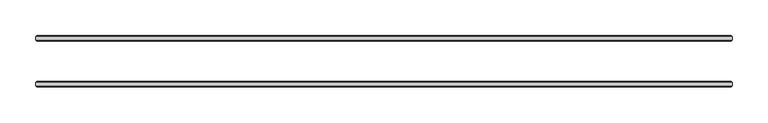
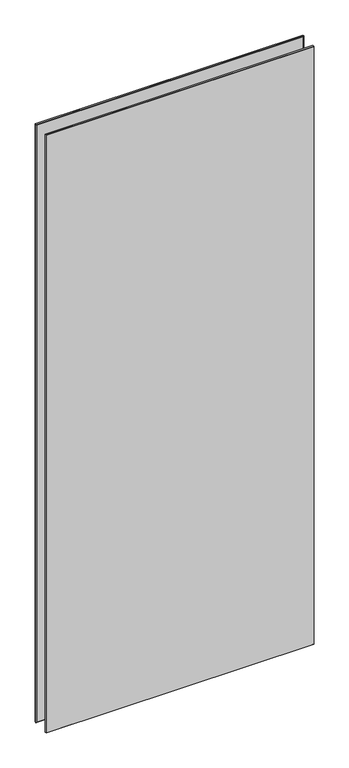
"""IFC4 building model written with IfcOpenShell, lengths in millimetres: plate geometry, 3-AMG-2-Панель двойной витраж 8, 10 : Смещение 32 Толщина 8mm."""

from ifc_helpers import new_model, si_unit, origin, place, context, project, spatial, faceted_brep, source, transform, mapped, element, save


def plate_b0ecfe9c(model_context):
    return source(origin(), model_context, "Body", "Brep", [
        faceted_brep([(484.2182676, -34.4961653, 2287.9376562), (484.2182676, -29.5038347, 2287.9376562), (-489.2182676, -29.5038347, 2287.9376562), (-489.2182676, -34.4961653, 2287.9376562), (484.2182676, -29.5038347, -7.0), (484.2182676, -34.4961653, -7.0), (-489.2182676, -34.4961653, -7.0), (-489.2182676, -29.5038347, -7.0), (-487.7144328, -28.0, 2286.4338215), (482.7144328, -28.0, 2286.4338215), (482.7144328, -28.0, -5.5039422), (-487.7144328, -28.0, -5.5039422), (482.7144328, -36.0, 2286.4338215), (-487.7144328, -36.0, 2286.4338215), (-487.7144328, -36.0, -5.4961653), (482.7144328, -36.0, -5.4961653)], [[[0, 1, 2, 3]], [[4, 5, 6, 7]], [[8, 9, 10, 11]], [[3, 2, 7, 6]], [[12, 13, 14, 15]], [[1, 0, 5, 4]], [[1, 4, 10, 9]], [[5, 0, 12, 15]], [[0, 3, 13, 12]], [[2, 1, 9, 8]], [[7, 2, 8, 11]], [[3, 6, 14, 13]], [[6, 5, 15, 14]], [[4, 7, 11, 10]]]),
        faceted_brep([(484.2182676, 29.5038347, 2287.9376562), (484.2182676, 34.4961653, 2287.9376562), (-489.2182676, 34.4961653, 2287.9376562), (-489.2182676, 29.5038347, 2287.9376562), (484.2182676, 34.4961653, -7.0), (484.2182676, 29.5038347, -7.0), (-489.2182676, 29.5038347, -7.0), (-489.2182676, 34.4961653, -7.0), (-487.7144328, 36.0, 2286.4338215), (482.7144328, 36.0, 2286.4338215), (482.7144328, 36.0, -5.5039422), (-487.7144328, 36.0, -5.5039422), (482.7144328, 28.0, 2286.4338215), (-487.7144328, 28.0, 2286.4338215), (-487.7144328, 28.0, -5.4961653), (482.7144328, 28.0, -5.4961653)], [[[0, 1, 2, 3]], [[4, 5, 6, 7]], [[8, 9, 10, 11]], [[3, 2, 7, 6]], [[12, 13, 14, 15]], [[1, 0, 5, 4]], [[1, 4, 10, 9]], [[5, 0, 12, 15]], [[7, 2, 8, 11]], [[3, 6, 14, 13]], [[0, 3, 13, 12]], [[2, 1, 9, 8]], [[6, 5, 15, 14]], [[4, 7, 11, 10]]]),
    ])


if __name__ == "__main__":
    model = new_model("IFC4")
    model_context = context("Model", 3, world=origin())
    ifc_project = project(units=[si_unit("LENGTHUNIT", "METRE", prefix="MILLI")], contexts=[model_context])
    site = spatial("IfcSite", under=ifc_project)
    building = spatial("IfcBuilding", under=site)
    placement = place(None, origin())
    plate_shape = plate_b0ecfe9c(model_context)
    element("IfcPlate", 1, ObjectType="3-AMG-2-Панель двойной витраж 8, 10 : Смещение 32 Толщина 8mm", at=placement, inside=building, context=model_context, shape_type="MappedRepresentation", body=[
        mapped(plate_shape, transform((0.0, 0.0, 0.0), x_axis=(1.0, 0.0, 0.0), y_axis=(0.0, 1.0, 0.0), z_axis=(0.0, 0.0, 1.0))),
    ])
    save(model, "model.ifc")
